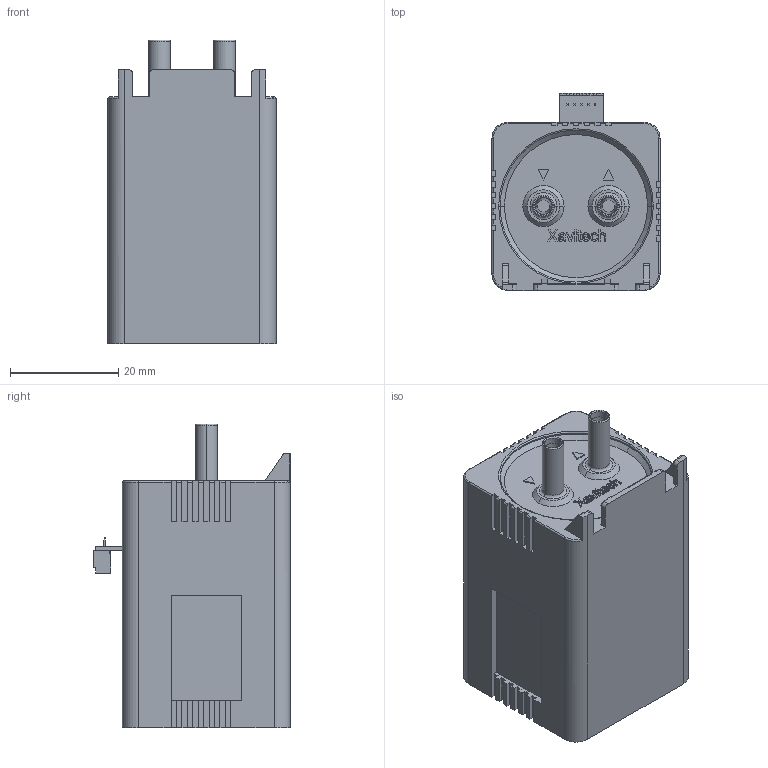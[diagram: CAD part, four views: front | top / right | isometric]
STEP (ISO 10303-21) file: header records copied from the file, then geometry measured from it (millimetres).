
FILE_DESCRIPTION (( 'STEP AP214' ), '1' );
FILE_NAME ('X1500-Black-edition-3 and 5 wires v1 150423.SLDPRT.STEP', '2015-04-23T11:50:17', ( '' ), ( '' ), 'SwSTEP 2.0', 'SolidWorks 2014', '' );
FILE_SCHEMA (( 'AUTOMOTIVE_DESIGN' ));
Length unit declared in the file: millimetre
Products named in the file (2): X1500-Black-edition-3 and 5 wires v1 150423.SLDPRT
Bounding box: 31 x 36.3 x 56.05 mm (x, y, z)
Surface area: 8923 mm2 (no closed solid volume)
Topology: 0 solids, 9 shells, 497 faces, 1539 edges, 1044 vertices
Faces by surface type: plane 366, cylinder 56, bspline 43, torus 22, cone 10
Entity records: 24352 total; most frequent: CARTESIAN_POINT 5519, ORIENTED_EDGE 2772, DIRECTION 2503, EDGE_CURVE 1539, LINE 1271, VECTOR 1271, VERTEX_POINT 1044, AXIS2_PLACEMENT_3D 616
